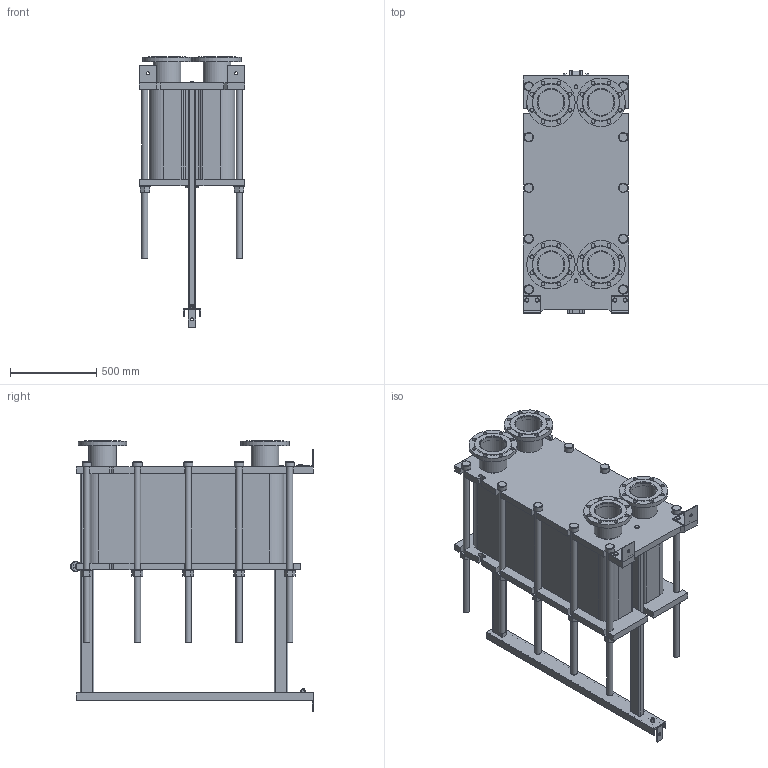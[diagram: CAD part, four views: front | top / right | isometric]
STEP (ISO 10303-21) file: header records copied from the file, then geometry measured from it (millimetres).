
FILE_DESCRIPTION(/* description */ (''),/* implementation_level */ '2;1');
FILE_NAME(/* name */ 'C:\Users\zhuro\Desktop\ENCO\TO\ЭН-041\ЭН-0,5-041-150-1.stp',/* time_stamp */ '2022-06-06T11:01:37+03:00',/* author */ ('zhuro'),/* organization */ (''),/* preprocessor_version */ 'ST-DEVELOPER v18.1',/* originating_system */ 'Autodesk Inventor 2022',/* authorisation */ '');
FILE_SCHEMA (('AUTOMOTIVE_DESIGN { 1 0 10303 214 3 1 1 }'));
Length unit declared in the file: millimetre
Products named in the file (1): ЭН-0,5-041-150-1
Bounding box: 610 x 1406.5 x 1565 mm (x, y, z)
Volume: 375048071.6 mm3; surface area: 10126970.1 mm2
Topology: 52 solids, 52 shells, 711 faces, 1696 edges, 1094 vertices
Faces by surface type: plane 487, cylinder 177, cone 41, torus 6
Full cylindrical faces by diameter (mm): 8 x4, 10 x2, 16 x8, 18 x3, 22 x32, 36 x24, 50 x1, 54 x10, 60 x12, 151 x4, 161 x8, 280 x4
Entity records: 22667 total; most frequent: CARTESIAN_POINT 5230, DIRECTION 3644, ORIENTED_EDGE 3392, EDGE_CURVE 1696, AXIS2_PLACEMENT_3D 1272, LINE 1100, VECTOR 1100, VERTEX_POINT 1094
